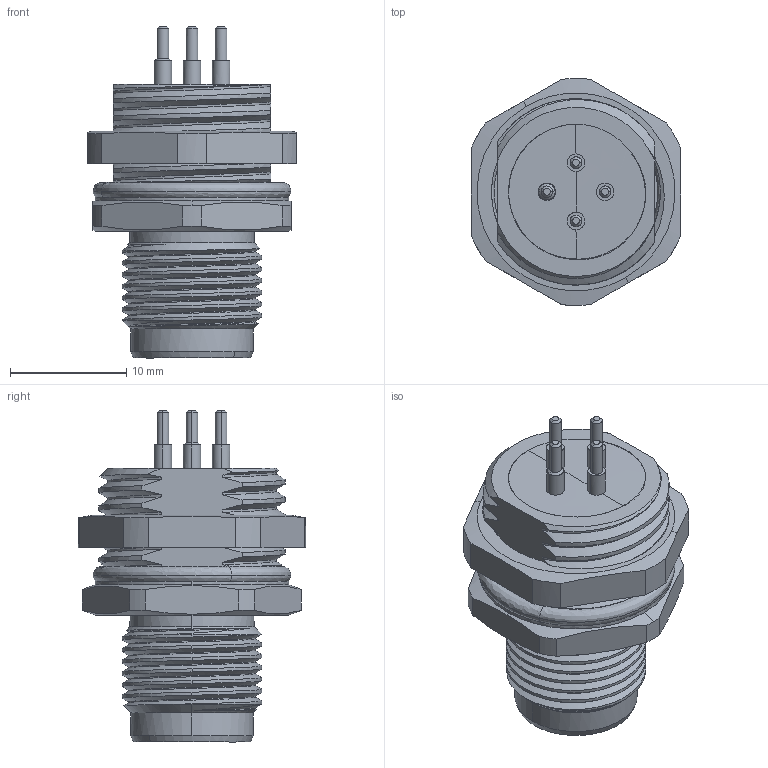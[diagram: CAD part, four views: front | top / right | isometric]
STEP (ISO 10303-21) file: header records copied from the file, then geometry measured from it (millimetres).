
FILE_DESCRIPTION (( 'STEP AP203' ), '1' );
FILE_NAME ('64SA21P.STEP', '2023-10-19T07:52:44', ( 'ADMIN' ), ( '' ), 'SwSTEP 2.0', 'SolidWorks 2016', '' );
FILE_SCHEMA (( 'CONFIG_CONTROL_DESIGN' ));
Length unit declared in the file: millimetre
Products named in the file (1): 64SA21P
Bounding box: 18 x 19.5 x 28.5 mm (x, y, z)
Volume: 3340.2 mm3; surface area: 2576.4 mm2
Topology: 1 solids, 1 shells, 455 faces, 1312 edges, 872 vertices
Faces by surface type: bspline 160, cylinder 151, plane 144
Entity records: 34465 total; most frequent: CARTESIAN_POINT 24622, ORIENTED_EDGE 2614, EDGE_CURVE 1307, DIRECTION 1149, VERTEX_POINT 872, B_SPLINE_CURVE_WITH_KNOTS 807, EDGE_LOOP 481, ADVANCED_FACE 455
